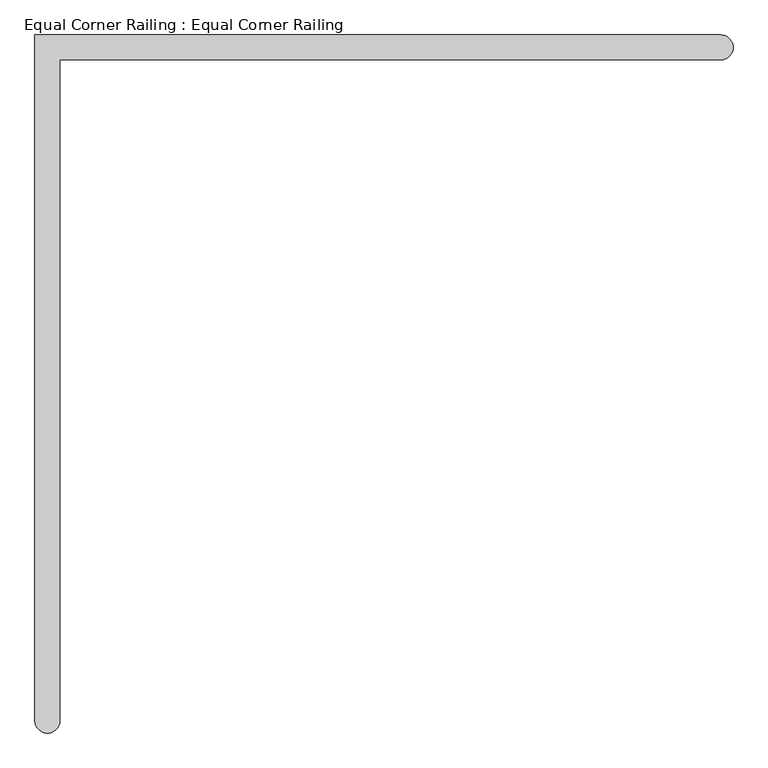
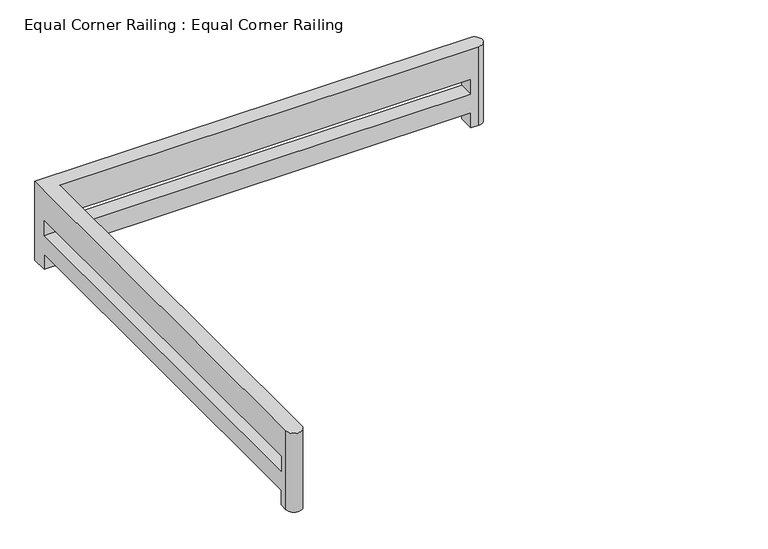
"""IFC4 building model written with IfcOpenShell, lengths in millimetres: railing geometry, Equal Corner Railing : Equal Corner Railing."""

from ifc_helpers import new_model, si_unit, frame, origin, place, context, project, spatial, circle_curve, source, transform, mapped, element, save
from ifc_brep_helpers import plane_surface, cylinder_surface, advanced_brep


def equal_corner_railing_equal_corner_railing_7f9a76b9(model_context):
    return source(origin(), model_context, "Body", "AdvancedBrep", [
        advanced_brep(
        [(-101.6, -5473.7, 1066.8), (101.6, -5473.7, 1066.8), (101.6, -101.6, 1066.8), (5473.7, -101.6, 1066.8), (5473.7, 101.6, 1066.8), (-101.6, 101.6, 1066.8), (-101.6, -5473.7, 0.0), (-101.6, -5372.1, 0.0), (101.6, -5372.1, 0.0), (101.6, -5473.7, 0.0), (5473.7, -101.6, 0.0), (5372.1, -101.6, 0.0), (5372.1, 101.6, 0.0), (5473.7, 101.6, 0.0), (101.6, 101.6, 0.0), (101.6, -101.6, 0.0), (-101.6, -101.6, 0.0), (-101.6, 101.6, 0.0), (-101.6, -101.6, 203.2), (-101.6, -5372.1, 203.2), (-101.6, -5372.1, 660.4), (-101.6, -5372.1, 457.2), (-101.6, -101.6, 457.2), (-101.6, -101.6, 660.4), (5372.1, 101.6, 203.2), (101.6, 101.6, 203.2), (101.6, 101.6, 660.4), (101.6, 101.6, 457.2), (5372.1, 101.6, 457.2), (5372.1, 101.6, 660.4), (101.6, -101.6, 660.4), (5372.1, -101.6, 660.4), (5372.1, -101.6, 457.2), (101.6, -101.6, 457.2), (101.6, -101.6, 203.2), (5372.1, -101.6, 203.2), (101.6, -5372.1, 203.2), (101.6, -5372.1, 457.2), (101.6, -5372.1, 660.4)],
        [
            (0, 1, circle_curve(frame((0.0, -5473.7, 1066.8), z_axis=(0.0, 0.0, 1.0), x_axis=(1.0, 0.0, 0.0)), 101.6)),
            (1, 2),
            (2, 3),
            (3, 4, circle_curve(frame((5473.7, 0.0, 1066.8), z_axis=(0.0, 0.0, 1.0), x_axis=(1.0, 0.0, 0.0)), 101.6)),
            (4, 5),
            (5, 0),
            (6, 7),
            (7, 8),
            (8, 9),
            (9, 6, circle_curve(frame((0.0, -5473.7, 0.0), z_axis=(0.0, 0.0, -1.0), x_axis=(1.0, 0.0, 0.0)), 101.6)),
            (10, 11),
            (11, 12),
            (12, 13),
            (13, 10, circle_curve(frame((5473.7, 0.0, 0.0), z_axis=(0.0, 0.0, -1.0), x_axis=(1.0, 0.0, 0.0)), 101.6)),
            (14, 15),
            (15, 16),
            (16, 17),
            (17, 14),
            (5, 17),
            (16, 18),
            (18, 19),
            (19, 7),
            (6, 0),
            (20, 21),
            (21, 22),
            (22, 23),
            (23, 20),
            (4, 13),
            (12, 24),
            (24, 25),
            (25, 14),
            (26, 27),
            (27, 28),
            (28, 29),
            (29, 26),
            (3, 10),
            (2, 30),
            (30, 31),
            (31, 32),
            (32, 33),
            (33, 34),
            (34, 35),
            (35, 11),
            (1, 9),
            (8, 36),
            (36, 34),
            (33, 37),
            (37, 38),
            (38, 30),
            (34, 15),
            (25, 34),
            (30, 33),
            (33, 27),
            (26, 30),
            (24, 35),
            (29, 31),
            (32, 28),
            (36, 19),
            (18, 34),
            (38, 20),
            (23, 30),
            (22, 33),
            (21, 37),
        ],
        [
            plane_surface(frame((-101.6, 0.0, 1066.8), z_axis=(0.0, 0.0, 1.0), x_axis=(0.0, 1.0, 0.0))),
            plane_surface(frame((-101.6, 0.0, 0.0), z_axis=(0.0, 0.0, -1.0), x_axis=(0.0, -1.0, 0.0))),
            plane_surface(frame((-101.6, -5473.7, 1066.8), z_axis=(-1.0, 0.0, 0.0), x_axis=(0.0, 0.0, -1.0))),
            plane_surface(frame((-101.6, 101.6, 1066.8), z_axis=(0.0, 1.0, 0.0), x_axis=(0.0, 0.0, -1.0))),
            cylinder_surface(frame((5473.7, 0.0, 0.0), z_axis=(0.0, 0.0, 1.0), x_axis=(1.0, 0.0, 0.0)), 101.6),
            plane_surface(frame((5473.7, -101.6, 1066.8), z_axis=(0.0, -1.0, 0.0), x_axis=(0.0, 0.0, -1.0))),
            plane_surface(frame((101.6, -101.6, 1066.8), z_axis=(1.0, 0.0, 0.0), x_axis=(0.0, 0.0, -1.0))),
            cylinder_surface(frame((0.0, -5473.7, 0.0), z_axis=(0.0, 0.0, 1.0), x_axis=(1.0, 0.0, 0.0)), 101.6),
            plane_surface(frame((5372.1, 101.6, 203.2), z_axis=(0.0, 0.0, -1.0), x_axis=(0.0, -1.0, 0.0))),
            plane_surface(frame((5372.1, 101.6, 0.0), z_axis=(-1.0, 0.0, 0.0), x_axis=(0.0, -1.0, 0.0))),
            plane_surface(frame((5372.1, 101.6, 660.4), z_axis=(0.0, 0.0, -1.0), x_axis=(0.0, -1.0, 0.0))),
            plane_surface(frame((101.6, 101.6, 457.2), z_axis=(0.0, 0.0, 1.0), x_axis=(0.0, -1.0, 0.0))),
            plane_surface(frame((5372.1, 101.6, 457.2), z_axis=(-1.0, 0.0, 0.0), x_axis=(0.0, -1.0, 0.0))),
            plane_surface(frame((101.6, -5372.1, 203.2), z_axis=(0.0, 0.0, -1.0), x_axis=(-1.0, 0.0, 0.0))),
            plane_surface(frame((101.6, -101.6, 203.2), z_axis=(0.0, -1.0, 0.0), x_axis=(-1.0, 0.0, 0.0))),
            plane_surface(frame((101.6, -5372.1, 0.0), z_axis=(0.0, 1.0, 0.0), x_axis=(-1.0, 0.0, 0.0))),
            plane_surface(frame((101.6, -5372.1, 660.4), z_axis=(0.0, 0.0, -1.0), x_axis=(-1.0, 0.0, 0.0))),
            plane_surface(frame((101.6, -101.6, 660.4), z_axis=(0.0, -1.0, 0.0), x_axis=(-1.0, 0.0, 0.0))),
            plane_surface(frame((101.6, -101.6, 457.2), z_axis=(0.0, 0.0, 1.0), x_axis=(-1.0, 0.0, 0.0))),
            plane_surface(frame((101.6, -5372.1, 457.2), z_axis=(0.0, 1.0, 0.0), x_axis=(-1.0, 0.0, 0.0))),
        ],
        [
            (0, [[1, 2, 3, 4, 5, 6]]),
            (1, [[7, 8, 9, 10]]),
            (1, [[11, 12, 13, 14]]),
            (1, [[15, 16, 17, 18]]),
            (2, [[19, -17, 20, 21, 22, -7, 23, -6], [24, 25, 26, 27]]),
            (3, [[28, -13, 29, 30, 31, -18, -19, -5], [32, 33, 34, 35]]),
            (4, [[36, -14, -28, -4]]),
            (5, [[37, 38, 39, 40, 41, 42, 43, -11, -36, -3]]),
            (6, [[44, -9, 45, 46, -41, 47, 48, 49, -37, -2]]),
            (6, [[50, -15, -31, 51]]),
            (6, [[52, 53, -32, 54]]),
            (7, [[-23, -10, -44, -1]]),
            (8, [[-30, 55, -42, -51]]),
            (9, [[-29, -12, -43, -55]]),
            (10, [[-35, 56, -38, -54]]),
            (11, [[-40, 57, -33, -53]]),
            (12, [[-34, -57, -39, -56]]),
            (13, [[-46, 58, -21, 59]]),
            (14, [[-20, -16, -50, -59]]),
            (15, [[-45, -8, -22, -58]]),
            (16, [[-49, 60, -27, 61]]),
            (17, [[-26, 62, -52, -61]]),
            (18, [[-25, 63, -47, -62]]),
            (19, [[-48, -63, -24, -60]]),
        ],
    ),
    ])


if __name__ == "__main__":
    model = new_model("IFC4")
    model_context = context("Model", 3, world=origin())
    ifc_project = project(units=[si_unit("LENGTHUNIT", "METRE", prefix="MILLI")], contexts=[model_context])
    site = spatial("IfcSite", under=ifc_project)
    building = spatial("IfcBuilding", under=site)
    placement = place(None, origin())
    equal_corner_railing_equal_corner_railing_shape = equal_corner_railing_equal_corner_railing_7f9a76b9(model_context)
    element("IfcRailing", 1, ObjectType="Equal Corner Railing : Equal Corner Railing", at=placement, inside=building, context=model_context, shape_type="MappedRepresentation", body=[
        mapped(equal_corner_railing_equal_corner_railing_shape, transform((0.0, 0.0, 0.0), x_axis=(1.0, 0.0, 0.0), y_axis=(0.0, 1.0, 0.0), z_axis=(0.0, 0.0, 1.0))),
    ])
    save(model, "model.ifc")
